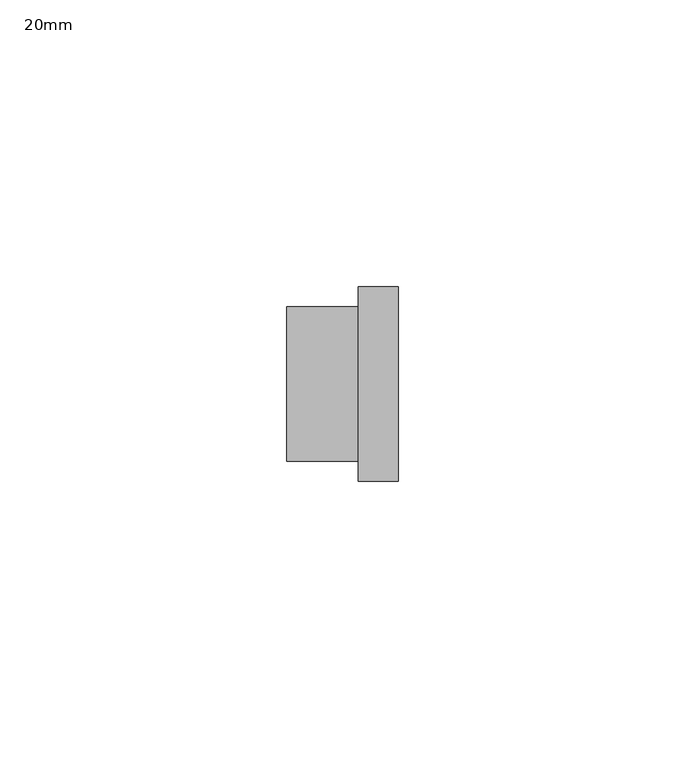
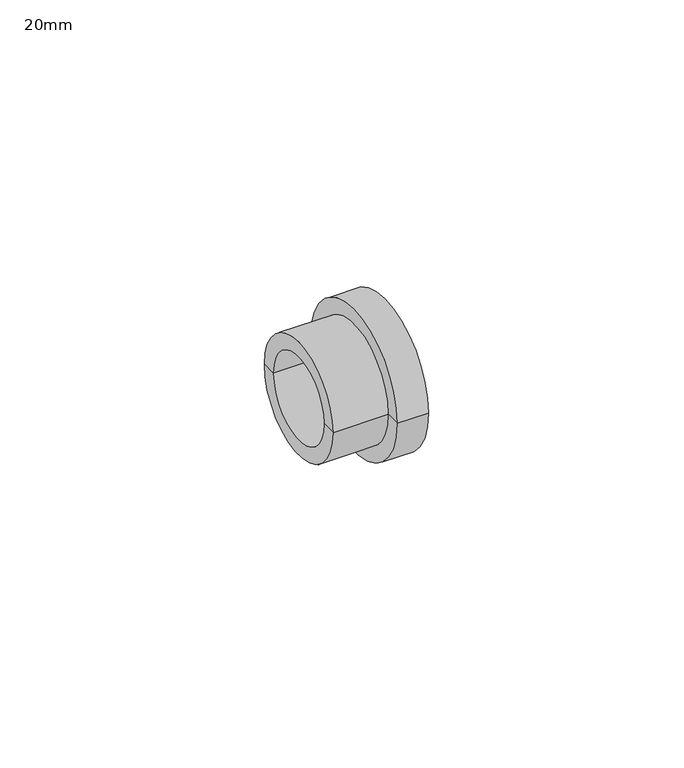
"""IFC4 building model written with IfcOpenShell, lengths in millimetres: pipe fitting geometry, Durapipe_PipeFitting_PVC_StubFlange : 20mm."""

from ifc_helpers import new_model, si_unit, frame, origin, place, context, project, spatial, polyline, circle_curve, source, transform, mapped, element, save
from ifc_brep_helpers import plane_surface, cylinder_surface, revolved_surface, advanced_brep


def pipe_fitting_20mm_3369a606(model_context):
    return source(origin(), model_context, "Body", "AdvancedBrep", [
        advanced_brep(
        [(9.75, -17.0, 0.0), (9.75, 17.0, 0.0), (9.75, 7.5, 0.0), (9.75, -7.5, 0.0), (2.75, -17.0, 0.0), (2.75, 17.0, 0.0), (2.75, -13.5, 0.0), (2.75, 13.5, 0.0), (-9.75, -13.5, 0.0), (-9.75, 13.5, 0.0), (-9.75, -10.0, 0.0), (-9.75, 10.0, 0.0), (6.25, 7.5, 0.0), (6.25, -7.5, 0.0), (6.25, -10.0, 0.0), (6.25, 10.0, 0.0)],
        [
            (0, 1, circle_curve(frame((9.75, 0.0, 0.0), z_axis=(1.0, 0.0, 0.0), x_axis=(0.0, 1.0, 0.0)), 17.0)),
            (1, 2),
            (2, 3, circle_curve(frame((9.75, 0.0, 0.0), z_axis=(-1.0, 0.0, 0.0), x_axis=(0.0, 1.0, 0.0)), 7.5)),
            (3, 0),
            (1, 0, circle_curve(frame((9.75, 0.0, 0.0), z_axis=(1.0, 0.0, 0.0), x_axis=(0.0, 1.0, 0.0)), 17.0)),
            (3, 2, circle_curve(frame((9.75, 0.0, 0.0), z_axis=(-1.0, 0.0, 0.0), x_axis=(0.0, 1.0, 0.0)), 7.5)),
            (0, 4),
            (4, 5, circle_curve(frame((2.75, 0.0, 0.0), z_axis=(1.0, 0.0, 0.0), x_axis=(0.0, 1.0, 0.0)), 17.0)),
            (5, 1),
            (5, 4, circle_curve(frame((2.75, 0.0, 0.0), z_axis=(1.0, 0.0, 0.0), x_axis=(0.0, 1.0, 0.0)), 17.0)),
            (4, 6),
            (6, 7, circle_curve(frame((2.75, 0.0, 0.0), z_axis=(1.0, 0.0, 0.0), x_axis=(0.0, 1.0, 0.0)), 13.5)),
            (7, 5),
            (7, 6, circle_curve(frame((2.75, 0.0, 0.0), z_axis=(1.0, 0.0, 0.0), x_axis=(0.0, 1.0, 0.0)), 13.5)),
            (6, 8),
            (8, 9, circle_curve(frame((-9.75, 0.0, 0.0), z_axis=(1.0, 0.0, 0.0), x_axis=(0.0, 1.0, 0.0)), 13.5)),
            (9, 7),
            (9, 8, circle_curve(frame((-9.75, 0.0, 0.0), z_axis=(1.0, 0.0, 0.0), x_axis=(0.0, 1.0, 0.0)), 13.5)),
            (8, 10),
            (10, 11, circle_curve(frame((-9.75, 0.0, 0.0), z_axis=(1.0, 0.0, 0.0), x_axis=(0.0, 1.0, 0.0)), 10.0)),
            (11, 9),
            (11, 10, circle_curve(frame((-9.75, 0.0, 0.0), z_axis=(1.0, 0.0, 0.0), x_axis=(0.0, 1.0, 0.0)), 10.0)),
            (2, 12),
            (12, 13, circle_curve(frame((6.25, 0.0, 0.0), z_axis=(-1.0, 0.0, 0.0), x_axis=(0.0, 1.0, 0.0)), 7.5)),
            (13, 3),
            (13, 12, circle_curve(frame((6.25, 0.0, 0.0), z_axis=(-1.0, 0.0, 0.0), x_axis=(0.0, 1.0, 0.0)), 7.5)),
            (10, 14),
            (14, 15, circle_curve(frame((6.25, 0.0, 0.0), z_axis=(1.0, 0.0, 0.0), x_axis=(0.0, 1.0, 0.0)), 10.0)),
            (15, 11),
            (15, 14, circle_curve(frame((6.25, 0.0, 0.0), z_axis=(1.0, 0.0, 0.0), x_axis=(0.0, 1.0, 0.0)), 10.0)),
            (14, 13),
            (12, 15),
        ],
        [
            plane_surface(frame((9.75, 0.0, 0.0), z_axis=(1.0, 0.0, 0.0), x_axis=(0.0, 1.0, 0.0))),
            cylinder_surface(frame((12.8535546, 0.0, 0.0), z_axis=(-1.0, 0.0, 0.0), x_axis=(0.0, 1.0, 0.0)), 17.0),
            plane_surface(frame((2.75, 0.0, 0.0), z_axis=(-1.0, 0.0, 0.0), x_axis=(0.0, 1.0, 0.0))),
            cylinder_surface(frame((12.8535546, 0.0, 0.0), z_axis=(-1.0, 0.0, 0.0), x_axis=(0.0, 1.0, 0.0)), 13.5),
            plane_surface(frame((-9.75, 0.0, 0.0), z_axis=(-1.0, 0.0, 0.0), x_axis=(0.0, 1.0, 0.0))),
            revolved_surface(polyline([(6.25, 7.5, 0.0), (9.75, 7.5, 0.0)]), (12.8535546, 0.0, 0.0), (-1.0, 0.0, 0.0)),
            revolved_surface(polyline([(-9.75, 10.0, 0.0), (6.249999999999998, 10.0, 0.0)]), (-11.5750714, 0.0, 0.0), (-1.0, 0.0, 0.0)),
            plane_surface(frame((6.25, 0.0, 0.0), z_axis=(-1.0, 0.0, 0.0), x_axis=(0.0, 1.0, 0.0))),
        ],
        [
            (0, [[1, 2, 3, 4]]),
            (0, [[-2, 5, -4, 6]]),
            (1, [[-1, 7, 8, 9]]),
            (1, [[-5, -9, 10, -7]]),
            (2, [[-8, 11, 12, 13]]),
            (2, [[-10, -13, 14, -11]]),
            (3, [[-12, 15, 16, 17]]),
            (3, [[-14, -17, 18, -15]]),
            (4, [[-16, 19, 20, 21]]),
            (4, [[-18, -21, 22, -19]]),
            (5, [[-3, 23, 24, 25]]),
            (5, [[-6, -25, 26, -23]]),
            (6, [[27, 28, 29, -20]]),
            (6, [[-27, -22, -29, 30]]),
            (7, [[-28, 31, -24, 32]]),
            (7, [[-30, -32, -26, -31]]),
        ],
    ),
    ])


if __name__ == "__main__":
    model = new_model("IFC4")
    model_context = context("Model", 3, world=origin())
    ifc_project = project(units=[si_unit("LENGTHUNIT", "METRE", prefix="MILLI")], contexts=[model_context])
    site = spatial("IfcSite", under=ifc_project)
    building = spatial("IfcBuilding", under=site)
    placement = place(None, origin())
    pipe_fitting_20mm_shape = pipe_fitting_20mm_3369a606(model_context)
    element("IfcPipeFitting", 1, ObjectType="Durapipe_PipeFitting_PVC_StubFlange : 20mm", at=placement, inside=building, context=model_context, shape_type="MappedRepresentation", body=[
        mapped(pipe_fitting_20mm_shape, transform((0.0, 0.0, 0.0), x_axis=(1.0, 0.0, 0.0), y_axis=(0.0, 1.0, 0.0), z_axis=(0.0, 0.0, 1.0))),
    ])
    save(model, "model.ifc")
